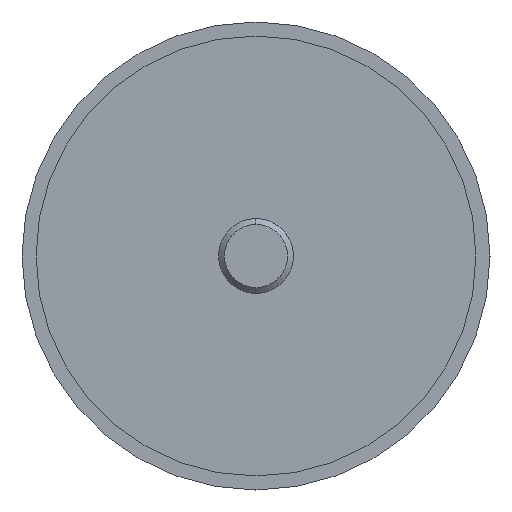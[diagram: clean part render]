
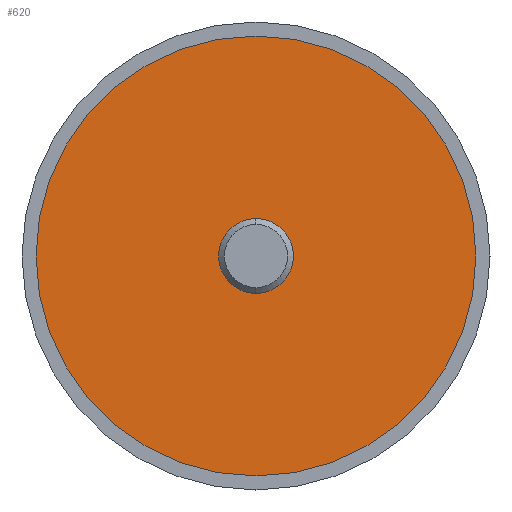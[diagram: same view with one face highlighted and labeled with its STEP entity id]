
A CAD part, left-side view. The second image highlights one B-rep face of the part: STEP entity #620.
In plain terms, the highlighted planar face has unit normal (-1, 0, 0).
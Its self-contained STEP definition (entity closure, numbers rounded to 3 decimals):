
#70 = DIRECTION ( 'NONE',  ( -1., 0., 0. ) ) ;
#96 = CARTESIAN_POINT ( 'NONE',  ( -37.49, 0., 0. ) ) ;
#104 = VERTEX_POINT ( 'NONE', #163 ) ;
#141 = CARTESIAN_POINT ( 'NONE',  ( -37.49, 47., 0. ) ) ;
#142 = CARTESIAN_POINT ( 'NONE',  ( -37.49, 0., 0. ) ) ;
#144 = FACE_OUTER_BOUND ( 'NONE', #456, .T. ) ;
#147 = VERTEX_POINT ( 'NONE', #239 ) ;
#158 = AXIS2_PLACEMENT_3D ( 'NONE', #211, #418, #571 ) ;
#163 = CARTESIAN_POINT ( 'NONE',  ( -37.49, 0., -47. ) ) ;
#172 = DIRECTION ( 'NONE',  ( 0., 0., 1. ) ) ;
#173 = AXIS2_PLACEMENT_3D ( 'NONE', #142, #402, #413 ) ;
#178 = CARTESIAN_POINT ( 'NONE',  ( -37.49, 0., 0. ) ) ;
#196 = FACE_BOUND ( 'NONE', #403, .T. ) ;
#198 = ORIENTED_EDGE ( 'NONE', *, *, #291, .F. ) ;
#211 = CARTESIAN_POINT ( 'NONE',  ( -37.49, 0., 0. ) ) ;
#228 = EDGE_CURVE ( 'NONE', #104, #147, #405, .T. ) ;
#235 = CIRCLE ( 'NONE', #416, 47. ) ;
#239 = CARTESIAN_POINT ( 'NONE',  ( -37.49, 0., 47. ) ) ;
#240 = ORIENTED_EDGE ( 'NONE', *, *, #347, .F. ) ;
#255 = DIRECTION ( 'NONE',  ( -1., 0., 0. ) ) ;
#259 = ORIENTED_EDGE ( 'NONE', *, *, #463, .T. ) ;
#264 = CIRCLE ( 'NONE', #565, 8. ) ;
#291 = EDGE_CURVE ( 'NONE', #656, #594, #264, .T. ) ;
#296 = DIRECTION ( 'NONE',  ( 0., 0., -1. ) ) ;
#347 = EDGE_CURVE ( 'NONE', #594, #656, #414, .T. ) ;
#356 = DIRECTION ( 'NONE',  ( 0., 0., -1. ) ) ;
#363 = AXIS2_PLACEMENT_3D ( 'NONE', #141, #549, #296 ) ;
#401 = CARTESIAN_POINT ( 'NONE',  ( -37.49, 0., 8. ) ) ;
#402 = DIRECTION ( 'NONE',  ( -1., 0., 0. ) ) ;
#403 = EDGE_LOOP ( 'NONE', ( #240, #198 ) ) ;
#405 = CIRCLE ( 'NONE', #173, 47. ) ;
#413 = DIRECTION ( 'NONE',  ( 0., 0., 1. ) ) ;
#414 = CIRCLE ( 'NONE', #158, 8. ) ;
#416 = AXIS2_PLACEMENT_3D ( 'NONE', #178, #70, #172 ) ;
#418 = DIRECTION ( 'NONE',  ( -1., 0., 0. ) ) ;
#449 = ORIENTED_EDGE ( 'NONE', *, *, #228, .T. ) ;
#456 = EDGE_LOOP ( 'NONE', ( #259, #449 ) ) ;
#463 = EDGE_CURVE ( 'NONE', #147, #104, #235, .T. ) ;
#549 = DIRECTION ( 'NONE',  ( 1., 0., 0. ) ) ;
#565 = AXIS2_PLACEMENT_3D ( 'NONE', #96, #255, #356 ) ;
#571 = DIRECTION ( 'NONE',  ( 0., 0., -1. ) ) ;
#594 = VERTEX_POINT ( 'NONE', #401 ) ;
#620 = ADVANCED_FACE ( 'NONE', ( #144, #196 ), #622, .F. ) ;
#622 = PLANE ( 'NONE',  #363 ) ;
#631 = CARTESIAN_POINT ( 'NONE',  ( -37.49, 0., -8. ) ) ;
#656 = VERTEX_POINT ( 'NONE', #631 ) ;
